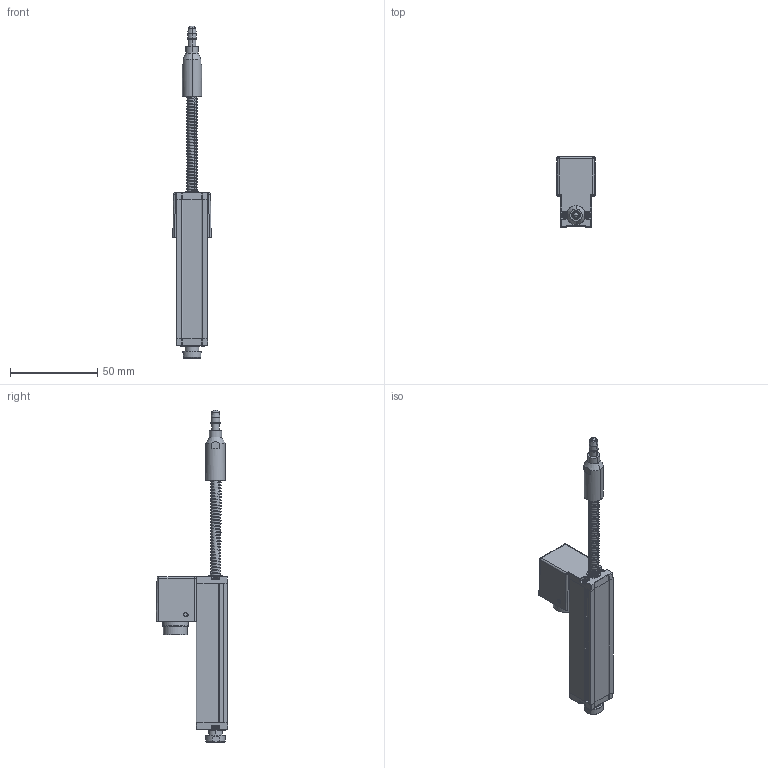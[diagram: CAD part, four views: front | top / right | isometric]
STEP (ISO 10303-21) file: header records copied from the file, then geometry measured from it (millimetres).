
FILE_DESCRIPTION(('FreeCAD Model'),'2;1');
FILE_NAME('O:/12-Produkte/12-10 PM/12-10-40 WEG/01_Produktinfo/SPR18/Zeichnungen & CAD-Daten/SPR18-50-S-.step','2017-03-10T11:07:00',('Author'),(''), 'Open CASCADE STEP processor 6.8','FreeCAD','Unknown');
FILE_SCHEMA(('AUTOMOTIVE_DESIGN_CC2 { 1 2 10303 214 -1 1 5 4 }'));
Length unit declared in the file: millimetre
Products named in the file (2): ASSEMBLY; SPR18_Sttecker
Assembly tree (1 placements, depth 2):
  ASSEMBLY
    SPR18_Sttecker
Bounding box: 22 x 41 x 190.58 mm (x, y, z)
Volume: 26670 mm3; surface area: 24463.3 mm2
Topology: 1 solids, 7 shells, 1089 faces, 2836 edges, 1822 vertices
Faces by surface type: plane 594, cylinder 257, cone 96, bspline 86, torus 30, sphere 22, revolution 4
Entity records: 140785 total; most frequent: CARTESIAN_POINT 80782, DIRECTION 8431, ORIENTED_EDGE 5648, PCURVE 5648, DEFINITIONAL_REPRESENTATION 5648, LINE 4575, VECTOR 4575, EDGE_CURVE 2824
